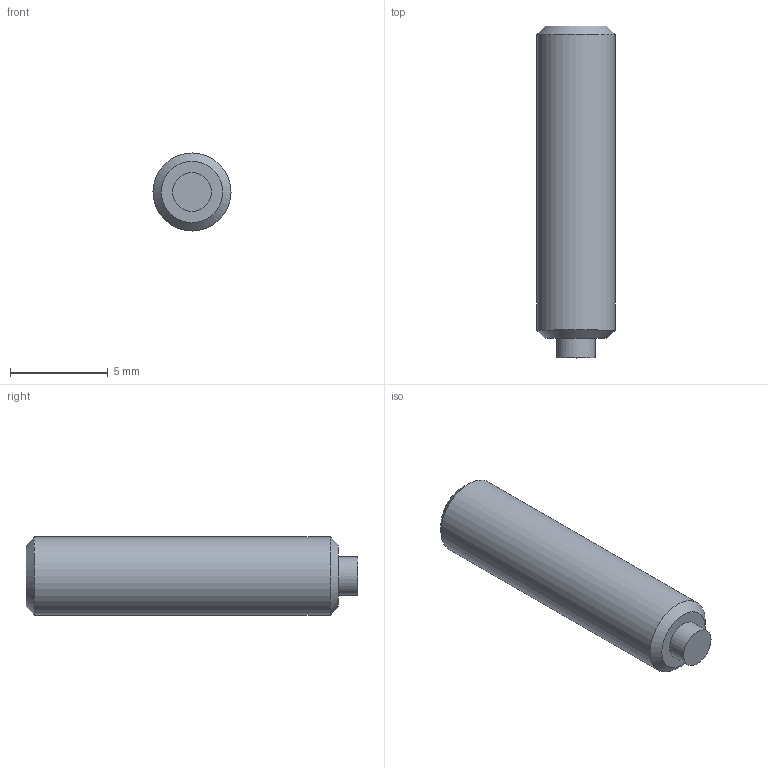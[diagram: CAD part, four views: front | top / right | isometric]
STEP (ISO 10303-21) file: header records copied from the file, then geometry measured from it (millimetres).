
FILE_DESCRIPTION( ( 'STEP AP203' ), '1' );
FILE_NAME( 'C:/Temp/Ganter_Step_05_03_2020/data/3_2/gn913_3/Grub screw GN 913.3-M4-16-KU.stp', '2020-03-13T05:35:33', ( 'License CC BY-ND 4.0' ), ( 'CADENAS' ), ' ', 'PARTsolutions', ' ' );
FILE_SCHEMA( ( 'CONFIG_CONTROL_DESIGN' ) );
Length unit declared in the file: millimetre
Products named in the file (1): _Grub screw GN 913.3-M4-16-KU
Bounding box: 4 x 17 x 4 mm (x, y, z)
Volume: 197.2 mm3; surface area: 238.7 mm2
Topology: 1 solids, 1 shells, 14 faces, 28 edges, 18 vertices
Faces by surface type: plane 10, cylinder 2, cone 2
Full cylindrical faces by diameter (mm): 2 x1, 4 x1
Entity records: 386 total; most frequent: DIRECTION 60, CARTESIAN_POINT 57, ORIENTED_EDGE 48, EDGE_CURVE 24, AXIS2_PLACEMENT_3D 21, EDGE_LOOP 20, VERTEX_POINT 18, LINE 18
